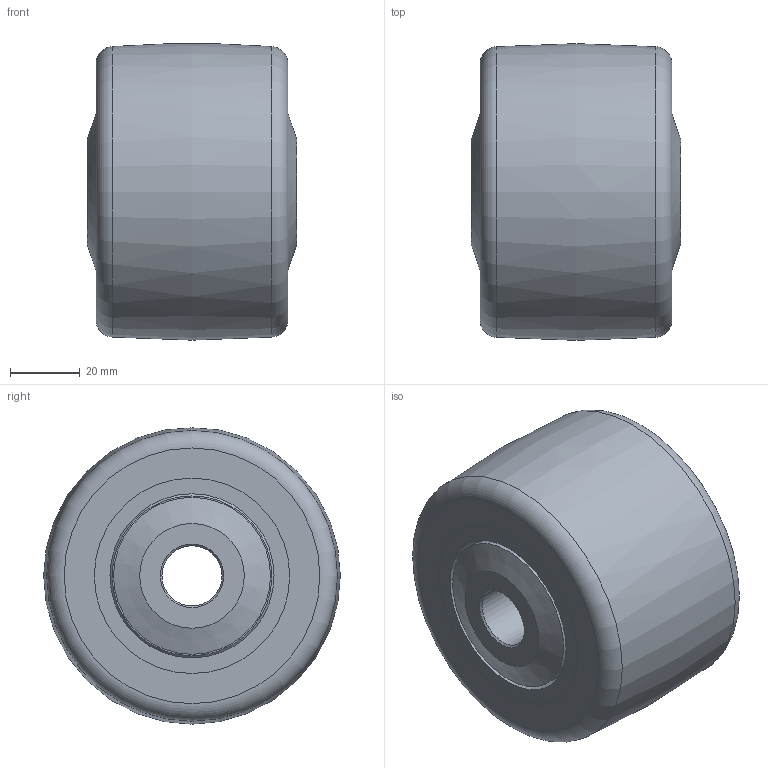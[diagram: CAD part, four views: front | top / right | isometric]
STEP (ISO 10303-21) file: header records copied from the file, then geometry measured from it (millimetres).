
FILE_DESCRIPTION(/* description */ (''),/* implementation_level */ '2;1');
FILE_NAME(/* name */ 'F:/기술영업부/홈페이지관련/2019/롤러도면/HURD-85-06017.step',/* time_stamp */ '2019-07-31T11:26:57+09:00',/* author */ (''),/* organization */ (''),/* preprocessor_version */ 'ST-DEVELOPER v18',/* originating_system */ 'Autodesk Translation Framework v8.2.0.1029',/* authorisation */ '');
FILE_SCHEMA (('AUTOMOTIVE_DESIGN { 1 0 10303 214 3 1 1 }'));
Length unit declared in the file: millimetre
Products named in the file (5): HURD-85-06017; Component1; Component2; Ball Bearing 6005; Roller_Cover D17
Assembly tree (6 placements, depth 2):
  HURD-85-06017
    Component1
    Component2
    Ball Bearing 6005  x2
    Roller_Cover D17  x2
Bounding box: 60 x 85 x 84.9 mm (x, y, z)
Volume: 263731.8 mm3; surface area: 83466.8 mm2
Topology: 40 solids, 40 shells, 124 faces, 336 edges, 242 vertices
Faces by surface type: cylinder 37, plane 30, sphere 28, cone 18, torus 10, bspline 1
Full cylindrical faces by diameter (mm): 17.2 x2, 24.8 x2, 25 x2, 30 x2, 32.923 x8, 39.077 x8, 41 x1, 45 x2, 47 x4, 53 x2, 56 x4
Entity records: 2508 total; most frequent: DIRECTION 472, CARTESIAN_POINT 423, ORIENTED_EDGE 340, AXIS2_PLACEMENT_3D 219, EDGE_CURVE 170, VERTEX_POINT 143, CIRCLE 136, EDGE_LOOP 91
